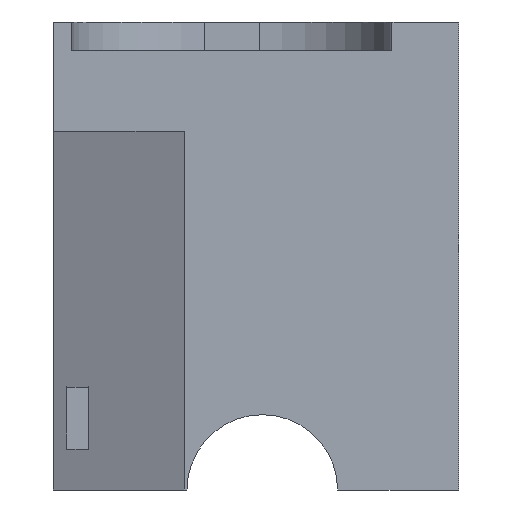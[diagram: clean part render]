
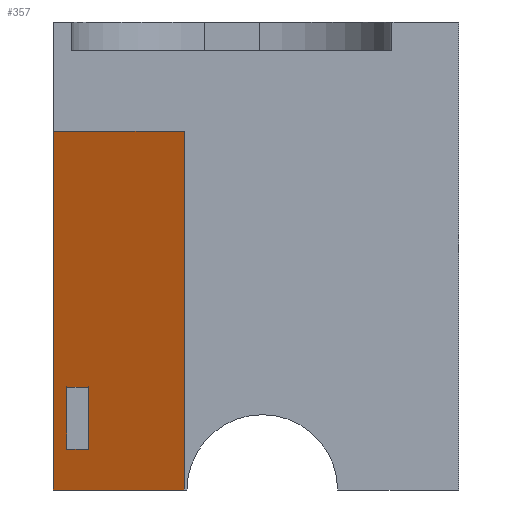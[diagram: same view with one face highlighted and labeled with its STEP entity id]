
A CAD part, left-side view. The second image highlights one B-rep face of the part: STEP entity #357.
In plain terms, the highlighted planar face has unit normal (-0.943, 0, -0.334).
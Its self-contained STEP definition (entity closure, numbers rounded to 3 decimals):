
#21 = EDGE_CURVE('',#22,#24,#26,.T.);
#22 = VERTEX_POINT('',#23);
#23 = CARTESIAN_POINT('',(0.,36.982,32.757));
#24 = VERTEX_POINT('',#25);
#25 = CARTESIAN_POINT('',(0.,25.035,32.757));
#26 = SURFACE_CURVE('',#27,(#31,#43),.PCURVE_S1.);
#27 = LINE('',#28,#29);
#28 = CARTESIAN_POINT('',(0.,36.982,32.757));
#29 = VECTOR('',#30,1.);
#30 = DIRECTION('',(0.,-1.,-0.));
#31 = PCURVE('',#32,#37);
#32 = PLANE('',#33);
#33 = AXIS2_PLACEMENT_3D('',#34,#35,#36);
#34 = CARTESIAN_POINT('',(0.,0.,0.));
#35 = DIRECTION('',(1.,0.,-0.));
#36 = DIRECTION('',(0.,0.,1.));
#37 = DEFINITIONAL_REPRESENTATION('',(#38),#42);
#38 = LINE('',#39,#40);
#39 = CARTESIAN_POINT('',(32.757,-36.982));
#40 = VECTOR('',#41,1.);
#41 = DIRECTION('',(0.,1.));
#42 = ( GEOMETRIC_REPRESENTATION_CONTEXT(2) 
PARAMETRIC_REPRESENTATION_CONTEXT() REPRESENTATION_CONTEXT('2D SPACE',''
  ) );
#43 = PCURVE('',#44,#49);
#44 = PLANE('',#45);
#45 = AXIS2_PLACEMENT_3D('',#46,#47,#48);
#46 = CARTESIAN_POINT('',(0.,36.982,32.757));
#47 = DIRECTION('',(0.942,0.,0.334));
#48 = DIRECTION('',(0.334,0.,-0.942));
#49 = DEFINITIONAL_REPRESENTATION('',(#50),#54);
#50 = LINE('',#51,#52);
#51 = CARTESIAN_POINT('',(0.,0.));
#52 = VECTOR('',#53,1.);
#53 = DIRECTION('',(0.,-1.));
#54 = ( GEOMETRIC_REPRESENTATION_CONTEXT(2) 
PARAMETRIC_REPRESENTATION_CONTEXT() REPRESENTATION_CONTEXT('2D SPACE',''
  ) );
#72 = PLANE('',#73);
#73 = AXIS2_PLACEMENT_3D('',#74,#75,#76);
#74 = CARTESIAN_POINT('',(0.,36.982,0.));
#75 = DIRECTION('',(-0.,1.,0.));
#76 = DIRECTION('',(0.,0.,1.));
#320 = PLANE('',#321);
#321 = AXIS2_PLACEMENT_3D('',#322,#323,#324);
#322 = CARTESIAN_POINT('',(0.,0.,0.));
#323 = DIRECTION('',(0.,0.,1.));
#324 = DIRECTION('',(1.,0.,-0.));
#346 = PLANE('',#347);
#347 = AXIS2_PLACEMENT_3D('',#348,#349,#350);
#348 = CARTESIAN_POINT('',(3.404,25.035,
    13.974));
#349 = DIRECTION('',(0.,1.,0.));
#350 = DIRECTION('',(0.,-0.,1.));
#357 = ADVANCED_FACE('f001',(#358,#428),#44,.F.);
#358 = FACE_BOUND('',#359,.F.);
#359 = EDGE_LOOP('',(#360,#361,#384,#407));
#360 = ORIENTED_EDGE('',*,*,#21,.T.);
#361 = ORIENTED_EDGE('',*,*,#362,.T.);
#362 = EDGE_CURVE('',#24,#363,#365,.T.);
#363 = VERTEX_POINT('',#364);
#364 = CARTESIAN_POINT('',(11.617,25.035,0.));
#365 = SURFACE_CURVE('',#366,(#370,#377),.PCURVE_S1.);
#366 = LINE('',#367,#368);
#367 = CARTESIAN_POINT('',(0.,25.035,32.757));
#368 = VECTOR('',#369,1.);
#369 = DIRECTION('',(0.334,0.,-0.942));
#370 = PCURVE('',#44,#371);
#371 = DEFINITIONAL_REPRESENTATION('',(#372),#376);
#372 = LINE('',#373,#374);
#373 = CARTESIAN_POINT('',(0.,-11.947));
#374 = VECTOR('',#375,1.);
#375 = DIRECTION('',(1.,0.));
#376 = ( GEOMETRIC_REPRESENTATION_CONTEXT(2) 
PARAMETRIC_REPRESENTATION_CONTEXT() REPRESENTATION_CONTEXT('2D SPACE',''
  ) );
#377 = PCURVE('',#346,#378);
#378 = DEFINITIONAL_REPRESENTATION('',(#379),#383);
#379 = LINE('',#380,#381);
#380 = CARTESIAN_POINT('',(18.783,-3.404));
#381 = VECTOR('',#382,1.);
#382 = DIRECTION('',(-0.942,0.334));
#383 = ( GEOMETRIC_REPRESENTATION_CONTEXT(2) 
PARAMETRIC_REPRESENTATION_CONTEXT() REPRESENTATION_CONTEXT('2D SPACE',''
  ) );
#384 = ORIENTED_EDGE('',*,*,#385,.F.);
#385 = EDGE_CURVE('',#386,#363,#388,.T.);
#386 = VERTEX_POINT('',#387);
#387 = CARTESIAN_POINT('',(11.617,36.982,0.));
#388 = SURFACE_CURVE('',#389,(#393,#400),.PCURVE_S1.);
#389 = LINE('',#390,#391);
#390 = CARTESIAN_POINT('',(11.617,36.982,0.));
#391 = VECTOR('',#392,1.);
#392 = DIRECTION('',(0.,-1.,-0.));
#393 = PCURVE('',#44,#394);
#394 = DEFINITIONAL_REPRESENTATION('',(#395),#399);
#395 = LINE('',#396,#397);
#396 = CARTESIAN_POINT('',(34.756,0.));
#397 = VECTOR('',#398,1.);
#398 = DIRECTION('',(0.,-1.));
#399 = ( GEOMETRIC_REPRESENTATION_CONTEXT(2) 
PARAMETRIC_REPRESENTATION_CONTEXT() REPRESENTATION_CONTEXT('2D SPACE',''
  ) );
#400 = PCURVE('',#320,#401);
#401 = DEFINITIONAL_REPRESENTATION('',(#402),#406);
#402 = LINE('',#403,#404);
#403 = CARTESIAN_POINT('',(11.617,36.982));
#404 = VECTOR('',#405,1.);
#405 = DIRECTION('',(0.,-1.));
#406 = ( GEOMETRIC_REPRESENTATION_CONTEXT(2) 
PARAMETRIC_REPRESENTATION_CONTEXT() REPRESENTATION_CONTEXT('2D SPACE',''
  ) );
#407 = ORIENTED_EDGE('',*,*,#408,.F.);
#408 = EDGE_CURVE('',#22,#386,#409,.T.);
#409 = SURFACE_CURVE('',#410,(#414,#421),.PCURVE_S1.);
#410 = LINE('',#411,#412);
#411 = CARTESIAN_POINT('',(0.,36.982,32.757));
#412 = VECTOR('',#413,1.);
#413 = DIRECTION('',(0.334,0.,-0.942));
#414 = PCURVE('',#44,#415);
#415 = DEFINITIONAL_REPRESENTATION('',(#416),#420);
#416 = LINE('',#417,#418);
#417 = CARTESIAN_POINT('',(0.,0.));
#418 = VECTOR('',#419,1.);
#419 = DIRECTION('',(1.,0.));
#420 = ( GEOMETRIC_REPRESENTATION_CONTEXT(2) 
PARAMETRIC_REPRESENTATION_CONTEXT() REPRESENTATION_CONTEXT('2D SPACE',''
  ) );
#421 = PCURVE('',#72,#422);
#422 = DEFINITIONAL_REPRESENTATION('',(#423),#427);
#423 = LINE('',#424,#425);
#424 = CARTESIAN_POINT('',(32.757,0.));
#425 = VECTOR('',#426,1.);
#426 = DIRECTION('',(-0.942,0.334));
#427 = ( GEOMETRIC_REPRESENTATION_CONTEXT(2) 
PARAMETRIC_REPRESENTATION_CONTEXT() REPRESENTATION_CONTEXT('2D SPACE',''
  ) );
#428 = FACE_BOUND('',#429,.F.);
#429 = EDGE_LOOP('',(#430,#458,#484,#510));
#430 = ORIENTED_EDGE('',*,*,#431,.F.);
#431 = EDGE_CURVE('',#432,#434,#436,.T.);
#432 = VERTEX_POINT('',#433);
#433 = CARTESIAN_POINT('',(10.296,35.778,
    3.725));
#434 = VERTEX_POINT('',#435);
#435 = CARTESIAN_POINT('',(8.296,35.778,9.364
    ));
#436 = SURFACE_CURVE('',#437,(#441,#447),.PCURVE_S1.);
#437 = LINE('',#438,#439);
#438 = CARTESIAN_POINT('',(-0.995,35.778,
    35.563));
#439 = VECTOR('',#440,1.);
#440 = DIRECTION('',(-0.334,0.,0.942));
#441 = PCURVE('',#44,#442);
#442 = DEFINITIONAL_REPRESENTATION('',(#443),#446);
#443 = B_SPLINE_CURVE_WITH_KNOTS('',1,(#444,#445),.UNSPECIFIED.,.F.,.F.,
  (2,2),(-33.781,-27.798),.PIECEWISE_BEZIER_KNOTS.);
#444 = CARTESIAN_POINT('',(30.804,-1.204));
#445 = CARTESIAN_POINT('',(24.82,-1.204));
#446 = ( GEOMETRIC_REPRESENTATION_CONTEXT(2) 
PARAMETRIC_REPRESENTATION_CONTEXT() REPRESENTATION_CONTEXT('2D SPACE',''
  ) );
#447 = PCURVE('',#448,#453);
#448 = PLANE('',#449);
#449 = AXIS2_PLACEMENT_3D('',#450,#451,#452);
#450 = CARTESIAN_POINT('',(10.296,35.778,
    42.727));
#451 = DIRECTION('',(0.,1.,-0.));
#452 = DIRECTION('',(-1.,0.,0.));
#453 = DEFINITIONAL_REPRESENTATION('',(#454),#457);
#454 = B_SPLINE_CURVE_WITH_KNOTS('',1,(#455,#456),.UNSPECIFIED.,.F.,.F.,
  (2,2),(-33.781,-27.798),.PIECEWISE_BEZIER_KNOTS.);
#455 = CARTESIAN_POINT('',(0.,-39.002));
#456 = CARTESIAN_POINT('',(2.,-33.362));
#457 = ( GEOMETRIC_REPRESENTATION_CONTEXT(2) 
PARAMETRIC_REPRESENTATION_CONTEXT() REPRESENTATION_CONTEXT('2D SPACE',''
  ) );
#458 = ORIENTED_EDGE('',*,*,#459,.F.);
#459 = EDGE_CURVE('',#460,#432,#462,.T.);
#460 = VERTEX_POINT('',#461);
#461 = CARTESIAN_POINT('',(10.296,33.778,
    3.725));
#462 = SURFACE_CURVE('',#463,(#467,#473),.PCURVE_S1.);
#463 = LINE('',#464,#465);
#464 = CARTESIAN_POINT('',(10.296,35.38,
    3.725));
#465 = VECTOR('',#466,1.);
#466 = DIRECTION('',(0.,1.,-0.));
#467 = PCURVE('',#44,#468);
#468 = DEFINITIONAL_REPRESENTATION('',(#469),#472);
#469 = B_SPLINE_CURVE_WITH_KNOTS('',1,(#470,#471),.UNSPECIFIED.,.F.,.F.,
  (2,2),(-1.602,0.398),.PIECEWISE_BEZIER_KNOTS.);
#470 = CARTESIAN_POINT('',(30.804,-3.204));
#471 = CARTESIAN_POINT('',(30.804,-1.204));
#472 = ( GEOMETRIC_REPRESENTATION_CONTEXT(2) 
PARAMETRIC_REPRESENTATION_CONTEXT() REPRESENTATION_CONTEXT('2D SPACE',''
  ) );
#473 = PCURVE('',#474,#479);
#474 = PLANE('',#475);
#475 = AXIS2_PLACEMENT_3D('',#476,#477,#478);
#476 = CARTESIAN_POINT('',(10.296,33.778,
    42.727));
#477 = DIRECTION('',(1.,-0.,0.));
#478 = DIRECTION('',(0.,1.,0.));
#479 = DEFINITIONAL_REPRESENTATION('',(#480),#483);
#480 = B_SPLINE_CURVE_WITH_KNOTS('',1,(#481,#482),.UNSPECIFIED.,.F.,.F.,
  (2,2),(-1.602,0.398),.PIECEWISE_BEZIER_KNOTS.);
#481 = CARTESIAN_POINT('',(0.,-39.002));
#482 = CARTESIAN_POINT('',(2.,-39.002));
#483 = ( GEOMETRIC_REPRESENTATION_CONTEXT(2) 
PARAMETRIC_REPRESENTATION_CONTEXT() REPRESENTATION_CONTEXT('2D SPACE',''
  ) );
#484 = ORIENTED_EDGE('',*,*,#485,.F.);
#485 = EDGE_CURVE('',#486,#460,#488,.T.);
#486 = VERTEX_POINT('',#487);
#487 = CARTESIAN_POINT('',(8.296,33.778,9.364
    ));
#488 = SURFACE_CURVE('',#489,(#493,#499),.PCURVE_S1.);
#489 = LINE('',#490,#491);
#490 = CARTESIAN_POINT('',(-1.107,33.778,
    35.878));
#491 = VECTOR('',#492,1.);
#492 = DIRECTION('',(0.334,0.,-0.942));
#493 = PCURVE('',#44,#494);
#494 = DEFINITIONAL_REPRESENTATION('',(#495),#498);
#495 = B_SPLINE_CURVE_WITH_KNOTS('',1,(#496,#497),.UNSPECIFIED.,.F.,.F.,
  (2,2),(28.132,34.116),.PIECEWISE_BEZIER_KNOTS.);
#496 = CARTESIAN_POINT('',(24.82,-3.204));
#497 = CARTESIAN_POINT('',(30.804,-3.204));
#498 = ( GEOMETRIC_REPRESENTATION_CONTEXT(2) 
PARAMETRIC_REPRESENTATION_CONTEXT() REPRESENTATION_CONTEXT('2D SPACE',''
  ) );
#499 = PCURVE('',#500,#505);
#500 = PLANE('',#501);
#501 = AXIS2_PLACEMENT_3D('',#502,#503,#504);
#502 = CARTESIAN_POINT('',(8.296,33.778,
    42.727));
#503 = DIRECTION('',(0.,-1.,0.));
#504 = DIRECTION('',(1.,0.,0.));
#505 = DEFINITIONAL_REPRESENTATION('',(#506),#509);
#506 = B_SPLINE_CURVE_WITH_KNOTS('',1,(#507,#508),.UNSPECIFIED.,.F.,.F.,
  (2,2),(28.132,34.116),.PIECEWISE_BEZIER_KNOTS.);
#507 = CARTESIAN_POINT('',(0.,-33.362));
#508 = CARTESIAN_POINT('',(2.,-39.002));
#509 = ( GEOMETRIC_REPRESENTATION_CONTEXT(2) 
PARAMETRIC_REPRESENTATION_CONTEXT() REPRESENTATION_CONTEXT('2D SPACE',''
  ) );
#510 = ORIENTED_EDGE('',*,*,#511,.F.);
#511 = EDGE_CURVE('',#434,#486,#512,.T.);
#512 = SURFACE_CURVE('',#513,(#517,#523),.PCURVE_S1.);
#513 = LINE('',#514,#515);
#514 = CARTESIAN_POINT('',(8.296,36.38,9.364
    ));
#515 = VECTOR('',#516,1.);
#516 = DIRECTION('',(0.,-1.,0.));
#517 = PCURVE('',#44,#518);
#518 = DEFINITIONAL_REPRESENTATION('',(#519),#522);
#519 = B_SPLINE_CURVE_WITH_KNOTS('',1,(#520,#521),.UNSPECIFIED.,.F.,.F.,
  (2,2),(0.602,2.602),.PIECEWISE_BEZIER_KNOTS.);
#520 = CARTESIAN_POINT('',(24.82,-1.204));
#521 = CARTESIAN_POINT('',(24.82,-3.204));
#522 = ( GEOMETRIC_REPRESENTATION_CONTEXT(2) 
PARAMETRIC_REPRESENTATION_CONTEXT() REPRESENTATION_CONTEXT('2D SPACE',''
  ) );
#523 = PCURVE('',#524,#529);
#524 = PLANE('',#525);
#525 = AXIS2_PLACEMENT_3D('',#526,#527,#528);
#526 = CARTESIAN_POINT('',(8.296,35.778,
    42.727));
#527 = DIRECTION('',(-1.,0.,0.));
#528 = DIRECTION('',(0.,-1.,0.));
#529 = DEFINITIONAL_REPRESENTATION('',(#530),#533);
#530 = B_SPLINE_CURVE_WITH_KNOTS('',1,(#531,#532),.UNSPECIFIED.,.F.,.F.,
  (2,2),(0.602,2.602),.PIECEWISE_BEZIER_KNOTS.);
#531 = CARTESIAN_POINT('',(0.,-33.362));
#532 = CARTESIAN_POINT('',(2.,-33.362));
#533 = ( GEOMETRIC_REPRESENTATION_CONTEXT(2) 
PARAMETRIC_REPRESENTATION_CONTEXT() REPRESENTATION_CONTEXT('2D SPACE',''
  ) );
